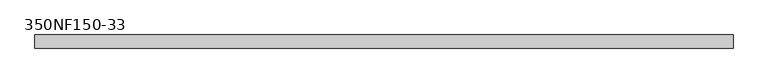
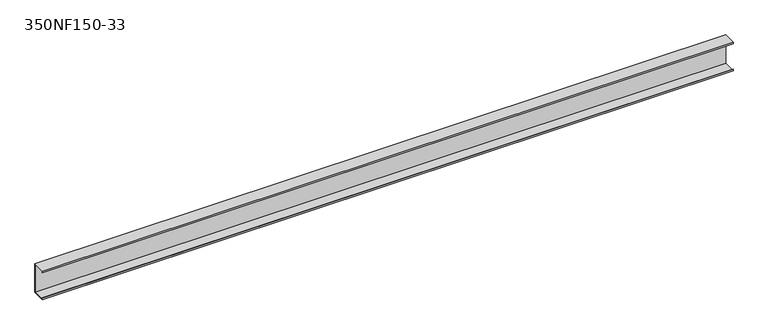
"""IFC4 building model written with IfcOpenShell, lengths in millimetres: beam geometry, BIMSF-SSMA-S : 350NF150-33."""

from ifc_helpers import new_model, si_unit, frame, origin, place, context, project, spatial, polyline, outline, extrude, source, transform, mapped, element, save


def beam_350nf150_33_f9f27d49(model_context):
    return source(origin(), model_context, "Body", "SweptSolid", [
        extrude(outline(polyline([(19.05, 44.45), (19.05, -44.45), (-19.05, -44.45), (-19.05, -39.6748), (-18.1676842, -39.6748), (-18.1676842, -43.5676842), (18.1676842, -43.5676842), (18.1676842, 43.5676842), (-18.1676842, 43.5676842), (-18.1676842, 39.6748), (-19.05, 39.6748), (-19.05, 44.45), (19.05, 44.45)])), frame((-1015.3317848, 0.0, 0.0), z_axis=(1.0, 0.0, 0.0), x_axis=(0.0, 1.0, 0.0)), (0.0, 0.0, 1.0), 2030.6635696),
    ])


if __name__ == "__main__":
    model = new_model("IFC4")
    model_context = context("Model", 3, world=origin())
    ifc_project = project(units=[si_unit("LENGTHUNIT", "METRE", prefix="MILLI")], contexts=[model_context])
    site = spatial("IfcSite", under=ifc_project)
    building = spatial("IfcBuilding", under=site)
    placement = place(None, origin())
    beam_350nf150_33_shape = beam_350nf150_33_f9f27d49(model_context)
    element("IfcBeam", 1, ObjectType="BIMSF-SSMA-S : 350NF150-33", at=placement, inside=building, context=model_context, shape_type="MappedRepresentation", body=[
        mapped(beam_350nf150_33_shape, transform((0.0, 0.0, 0.0), x_axis=(1.0, 0.0, 0.0), y_axis=(0.0, 1.0, 0.0), z_axis=(0.0, 0.0, 1.0))),
    ])
    save(model, "model.ifc")
